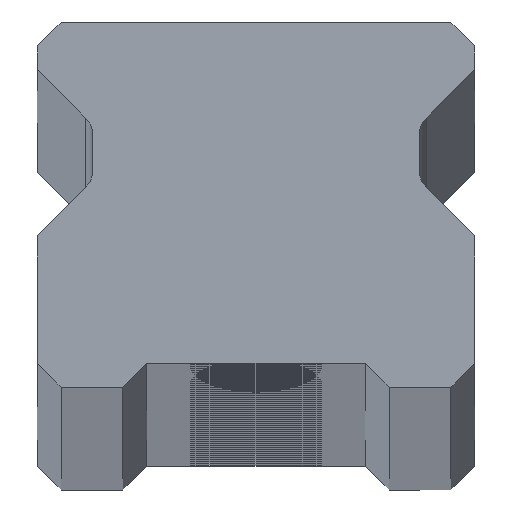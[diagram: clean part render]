
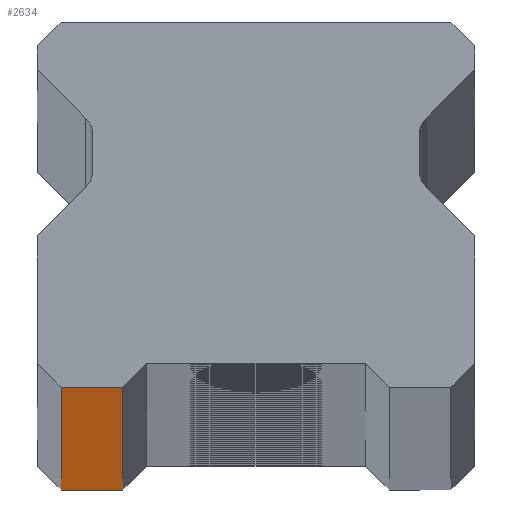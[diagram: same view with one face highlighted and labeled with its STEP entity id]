
A CAD part, top view. The second image highlights one B-rep face of the part: STEP entity #2634.
In plain terms, the highlighted planar face has unit normal (0, -1, 0).
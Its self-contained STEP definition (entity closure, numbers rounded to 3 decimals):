
#123 = ORIENTED_EDGE ( 'NONE', *, *, #1999, .T. ) ;
#637 = DIRECTION ( 'NONE',  ( 0., 1., 0. ) ) ;
#1397 = CARTESIAN_POINT ( 'NONE',  ( 11.5, 0., 1550. ) ) ;
#1425 = DIRECTION ( 'NONE',  ( 0., 0., -1. ) ) ;
#1999 = EDGE_CURVE ( 'NONE', #5832, #5110, #3069, .T. ) ;
#2053 = PLANE ( 'NONE',  #7512 ) ;
#2153 = CARTESIAN_POINT ( 'NONE',  ( -10.25, 0., -1550. ) ) ;
#2185 = ORIENTED_EDGE ( 'NONE', *, *, #2808, .T. ) ;
#2634 = ADVANCED_FACE ( 'NONE', ( #4234 ), #2053, .F. ) ;
#2804 = DIRECTION ( 'NONE',  ( 0., 0., 1. ) ) ;
#2808 = EDGE_CURVE ( 'NONE', #5453, #5832, #7447, .T. ) ;
#3069 = LINE ( 'NONE', #8251, #3711 ) ;
#3711 = VECTOR ( 'NONE', #2804, 1000. ) ;
#3739 = CARTESIAN_POINT ( 'NONE',  ( 11.5, 0., -1550. ) ) ;
#3754 = LINE ( 'NONE', #5569, #4736 ) ;
#4079 = EDGE_LOOP ( 'NONE', ( #2185, #123, #5997, #4454 ) ) ;
#4234 = FACE_OUTER_BOUND ( 'NONE', #4079, .T. ) ;
#4325 = CARTESIAN_POINT ( 'NONE',  ( -10.25, 0., 1550. ) ) ;
#4454 = ORIENTED_EDGE ( 'NONE', *, *, #6818, .T. ) ;
#4736 = VECTOR ( 'NONE', #1425, 1000. ) ;
#4817 = EDGE_CURVE ( 'NONE', #8575, #5110, #8279, .T. ) ;
#4826 = DIRECTION ( 'NONE',  ( 1., 0., 0. ) ) ;
#5110 = VERTEX_POINT ( 'NONE', #6600 ) ;
#5432 = VECTOR ( 'NONE', #8528, 1000. ) ;
#5443 = DIRECTION ( 'NONE',  ( -1., 0., 0. ) ) ;
#5453 = VERTEX_POINT ( 'NONE', #2153 ) ;
#5569 = CARTESIAN_POINT ( 'NONE',  ( -10.25, 0., 1550. ) ) ;
#5832 = VERTEX_POINT ( 'NONE', #7728 ) ;
#5997 = ORIENTED_EDGE ( 'NONE', *, *, #4817, .F. ) ;
#6246 = VECTOR ( 'NONE', #4826, 1000. ) ;
#6600 = CARTESIAN_POINT ( 'NONE',  ( -7., 0., 1550. ) ) ;
#6818 = EDGE_CURVE ( 'NONE', #8575, #5453, #3754, .T. ) ;
#6849 = CARTESIAN_POINT ( 'NONE',  ( 11.5, 0., 1550. ) ) ;
#7447 = LINE ( 'NONE', #3739, #5432 ) ;
#7512 = AXIS2_PLACEMENT_3D ( 'NONE', #6849, #637, #5443 ) ;
#7728 = CARTESIAN_POINT ( 'NONE',  ( -7., 0., -1550. ) ) ;
#8251 = CARTESIAN_POINT ( 'NONE',  ( -7., 0., -1550. ) ) ;
#8279 = LINE ( 'NONE', #1397, #6246 ) ;
#8528 = DIRECTION ( 'NONE',  ( 1., 0., 0. ) ) ;
#8575 = VERTEX_POINT ( 'NONE', #4325 ) ;
